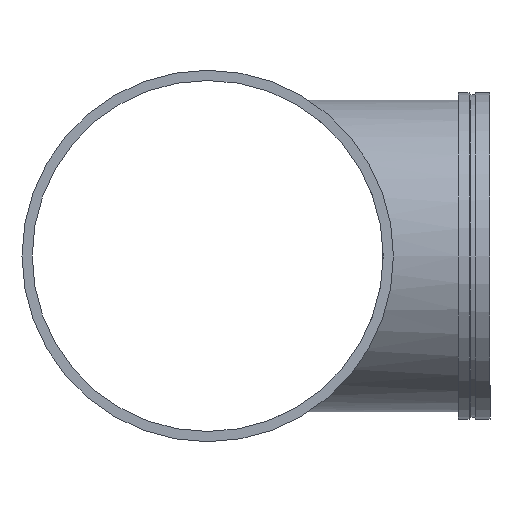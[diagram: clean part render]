
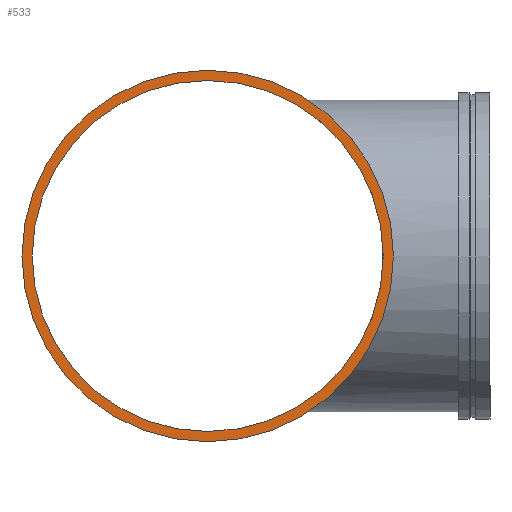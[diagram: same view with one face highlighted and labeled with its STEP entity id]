
A CAD part, left-side view. The second image highlights one B-rep face of the part: STEP entity #533.
In plain terms, the highlighted planar face has unit normal (-1, 0, 0).
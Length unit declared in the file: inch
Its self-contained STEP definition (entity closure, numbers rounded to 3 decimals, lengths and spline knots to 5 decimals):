
#58=FACE_BOUND('',#128,.T.);
#67=PLANE('',#626);
#92=FACE_OUTER_BOUND('',#127,.T.);
#127=EDGE_LOOP('',(#465,#466));
#128=EDGE_LOOP('',(#467,#468));
#151=CIRCLE('',#587,25.);
#152=CIRCLE('',#588,25.);
#175=CIRCLE('',#624,23.625);
#176=CIRCLE('',#625,23.625);
#239=VERTEX_POINT('',#1161);
#240=VERTEX_POINT('',#1163);
#263=VERTEX_POINT('',#1230);
#264=VERTEX_POINT('',#1232);
#299=EDGE_CURVE('',#239,#240,#151,.T.);
#300=EDGE_CURVE('',#240,#239,#152,.T.);
#331=EDGE_CURVE('',#264,#263,#175,.T.);
#332=EDGE_CURVE('',#263,#264,#176,.T.);
#465=ORIENTED_EDGE('',*,*,#300,.F.);
#466=ORIENTED_EDGE('',*,*,#299,.F.);
#467=ORIENTED_EDGE('',*,*,#331,.T.);
#468=ORIENTED_EDGE('',*,*,#332,.T.);
#533=ADVANCED_FACE('',(#92,#58),#67,.T.);
#587=AXIS2_PLACEMENT_3D('',#1164,#716,#717);
#588=AXIS2_PLACEMENT_3D('',#1165,#718,#719);
#624=AXIS2_PLACEMENT_3D('',#1233,#798,#799);
#625=AXIS2_PLACEMENT_3D('',#1234,#800,#801);
#626=AXIS2_PLACEMENT_3D('',#1235,#802,#803);
#716=DIRECTION('center_axis',(1.,0.,0.));
#717=DIRECTION('ref_axis',(0.,0.,1.));
#718=DIRECTION('center_axis',(1.,0.,0.));
#719=DIRECTION('ref_axis',(0.,0.,1.));
#798=DIRECTION('center_axis',(1.,0.,0.));
#799=DIRECTION('ref_axis',(0.,0.,1.));
#800=DIRECTION('center_axis',(1.,0.,0.));
#801=DIRECTION('ref_axis',(0.,0.,1.));
#802=DIRECTION('center_axis',(-1.,0.,0.));
#803=DIRECTION('ref_axis',(0.,0.,-1.));
#1161=CARTESIAN_POINT('',(-41.,25.,0.));
#1163=CARTESIAN_POINT('',(-41.,-25.,0.));
#1164=CARTESIAN_POINT('Origin',(-41.,0.,0.));
#1165=CARTESIAN_POINT('Origin',(-41.,0.,0.));
#1230=CARTESIAN_POINT('',(-41.,23.625,0.));
#1232=CARTESIAN_POINT('',(-41.,-23.625,0.));
#1233=CARTESIAN_POINT('Origin',(-41.,0.,0.));
#1234=CARTESIAN_POINT('Origin',(-41.,0.,0.));
#1235=CARTESIAN_POINT('Origin',(-41.,-25.,0.));
